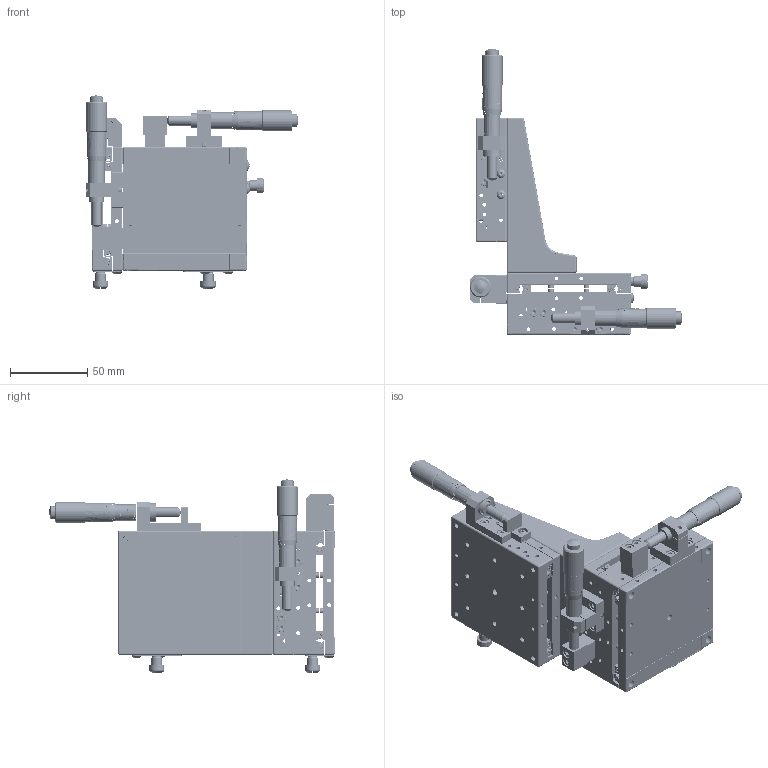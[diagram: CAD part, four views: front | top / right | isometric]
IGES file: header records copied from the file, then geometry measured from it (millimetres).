
Start section: SolidWorks IGES file using analytic representation for surfaces
Bounding box: 137.25 x 184.5 x 124.65 mm (x, y, z)
Surface area: 140918.8 mm2 (no closed solid volume)
Topology: 0 solids, 0 shells, 1956 faces, 37191 edges, 37078 vertices
Faces by surface type: bspline 1042, revolution 914
